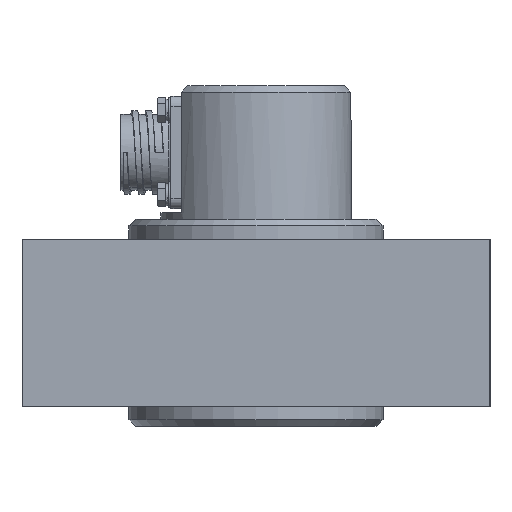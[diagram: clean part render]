
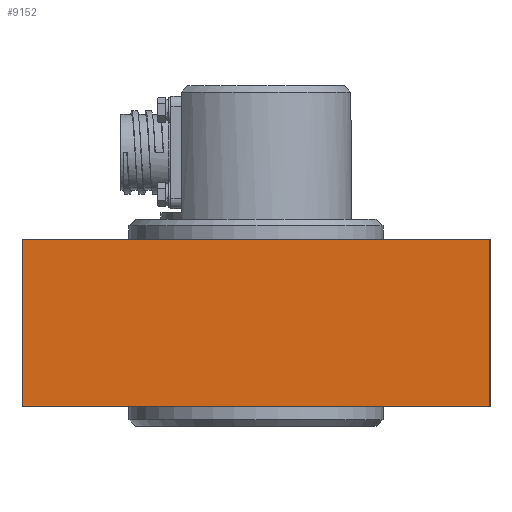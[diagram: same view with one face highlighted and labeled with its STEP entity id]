
A CAD part, left-side view. The second image highlights one B-rep face of the part: STEP entity #9152.
In plain terms, the highlighted planar face has unit normal (-1, 0, 0).
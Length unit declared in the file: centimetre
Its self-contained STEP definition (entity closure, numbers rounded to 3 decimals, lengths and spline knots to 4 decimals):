
#1484=VECTOR('',#15202,1.);
#1489=VECTOR('',#15216,1.);
#1493=VECTOR('',#15231,1.);
#1495=VECTOR('',#15235,1.);
#2094=LINE('',#10484,#1484);
#2099=LINE('',#10503,#1489);
#2103=LINE('',#10517,#1493);
#2105=LINE('',#10521,#1495);
#2709=PLANE('',#9701);
#3108=VERTEX_POINT('',#10485);
#3109=VERTEX_POINT('',#10486);
#3115=VERTEX_POINT('',#10501);
#3117=VERTEX_POINT('',#10504);
#4224=EDGE_CURVE('',#3108,#3109,#2094,.T.);
#4232=EDGE_CURVE('',#3117,#3115,#2099,.T.);
#4238=EDGE_CURVE('',#3108,#3115,#2103,.T.);
#4240=EDGE_CURVE('',#3109,#3117,#2105,.T.);
#5380=ORIENTED_EDGE('',*,*,#4232,.T.);
#5381=ORIENTED_EDGE('',*,*,#4238,.F.);
#5382=ORIENTED_EDGE('',*,*,#4224,.T.);
#5383=ORIENTED_EDGE('',*,*,#4240,.T.);
#7611=EDGE_LOOP('',(#5380,#5381,#5382,#5383));
#8387=FACE_BOUND('',#7611,.T.);
#9152=ADVANCED_FACE('',(#8387),#2709,.T.);
#9701=AXIS2_PLACEMENT_3D('',#10522,#15236,$);
#10484=CARTESIAN_POINT('',(-21.5,7.,0.));
#10485=CARTESIAN_POINT('',(-21.5,7.,0.));
#10486=CARTESIAN_POINT('',(-21.5,-7.,0.));
#10501=CARTESIAN_POINT('',(-21.5,7.,5.));
#10503=CARTESIAN_POINT('',(-21.5,7.,5.));
#10504=CARTESIAN_POINT('',(-21.5,-7.,5.));
#10517=CARTESIAN_POINT('',(-21.5,7.,0.));
#10521=CARTESIAN_POINT('',(-21.5,-7.,0.));
#10522=CARTESIAN_POINT('',(-21.5,0.,0.));
#15202=DIRECTION('',(0.,-1.,0.));
#15216=DIRECTION('',(0.,1.,0.));
#15231=DIRECTION('',(0.,0.,1.));
#15235=DIRECTION('',(0.,0.,1.));
#15236=DIRECTION('',(-1.,0.,0.));
